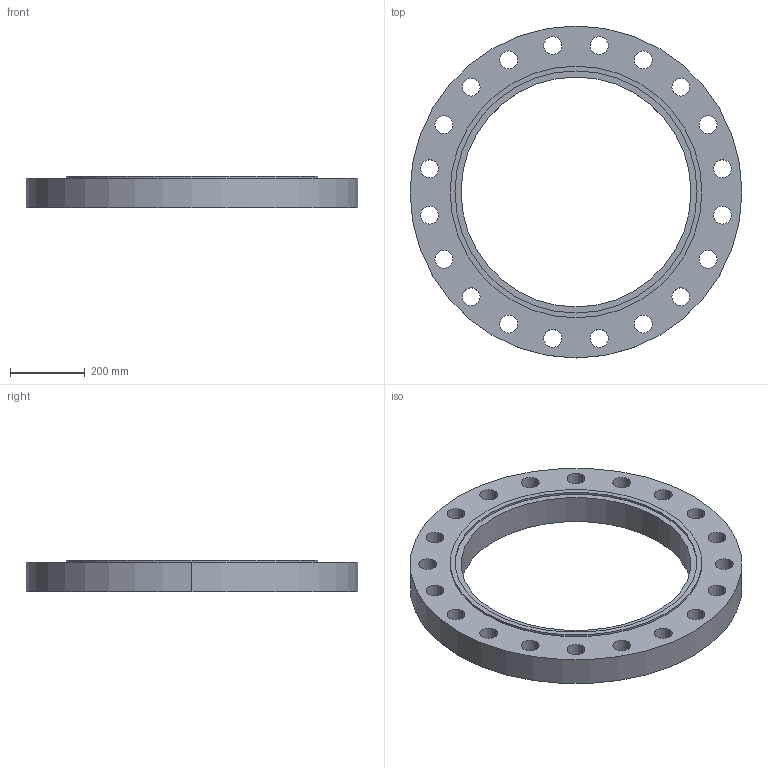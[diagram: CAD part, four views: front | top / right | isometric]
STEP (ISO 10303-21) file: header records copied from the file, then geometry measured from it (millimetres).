
FILE_DESCRIPTION (( 'STEP AP214' ), '1' );
FILE_NAME ('PN40 DN600 Type 01 - Type C Face.STEP', '2018-12-28T23:40:38', ( '' ), ( '' ), 'SwSTEP 2.0', 'SolidWorks 2019', '' );
FILE_SCHEMA (( 'AUTOMOTIVE_DESIGN' ));
Length unit declared in the file: millimetre
Products named in the file (1): PN40 DN600 Type 01 - Type C Face
Bounding box: 890 x 890 x 84 mm (x, y, z)
Volume: 22710754.2 mm3; surface area: 1205982.4 mm2
Topology: 1 solids, 1 shells, 52 faces, 144 edges, 96 vertices
Faces by surface type: cylinder 48, plane 4
Entity records: 1842 total; most frequent: DIRECTION 346, CARTESIAN_POINT 293, ORIENTED_EDGE 288, AXIS2_PLACEMENT_3D 149, EDGE_CURVE 144, CIRCLE 96, VERTEX_POINT 96, EDGE_LOOP 96
